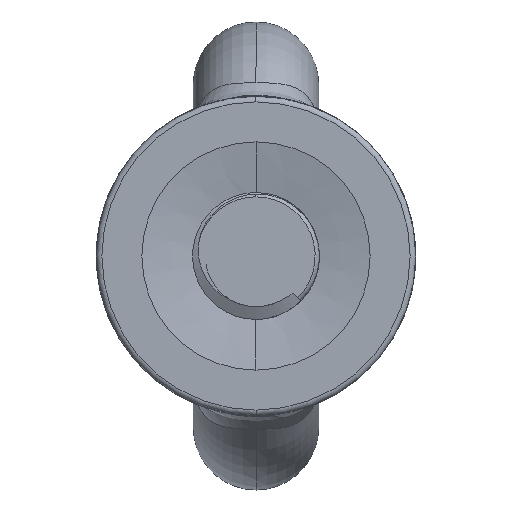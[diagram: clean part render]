
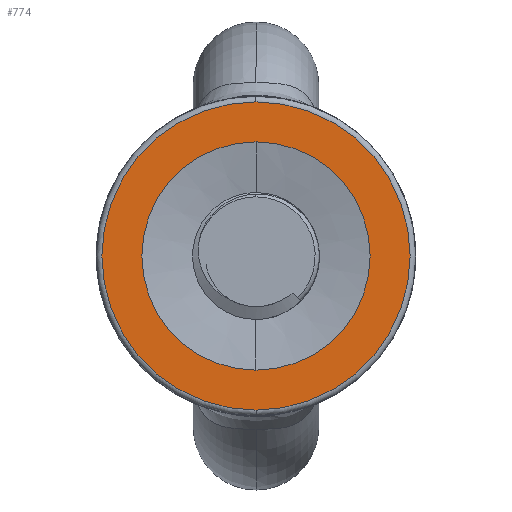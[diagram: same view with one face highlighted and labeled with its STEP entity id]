
A CAD part, left-side view. The second image highlights one B-rep face of the part: STEP entity #774.
In plain terms, the highlighted planar face has unit normal (-1, 0, 0).
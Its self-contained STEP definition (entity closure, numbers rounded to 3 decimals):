
#346 = CIRCLE ( 'NONE', #411, 13.5 ) ;
#396 = CIRCLE ( 'NONE', #4891, 10. ) ;
#411 = AXIS2_PLACEMENT_3D ( 'NONE', #1841, #1842, #1843 ) ;
#413 = AXIS2_PLACEMENT_3D ( 'NONE', #1043, #1044, #1045 ) ;
#419 = VERTEX_POINT ( 'NONE', #653 ) ;
#451 = ORIENTED_EDGE ( 'NONE', *, *, #4611, .F. ) ;
#454 = ORIENTED_EDGE ( 'NONE', *, *, #3268, .F. ) ;
#469 = VERTEX_POINT ( 'NONE', #695 ) ;
#499 = VERTEX_POINT ( 'NONE', #665 ) ;
#511 = ORIENTED_EDGE ( 'NONE', *, *, #3304, .T. ) ;
#653 = CARTESIAN_POINT ( 'NONE',  ( 0., 0., 13.5 ) ) ;
#665 = CARTESIAN_POINT ( 'NONE',  ( 0., 0., -10. ) ) ;
#695 = CARTESIAN_POINT ( 'NONE',  ( 0., 0., 10. ) ) ;
#774 = ADVANCED_FACE ( 'NONE', ( #1539, #1522 ), #3648, .F. ) ;
#1043 = CARTESIAN_POINT ( 'NONE',  ( 0., 0., 0. ) ) ;
#1044 = DIRECTION ( 'NONE',  ( -1., 0., 0. ) ) ;
#1045 = DIRECTION ( 'NONE',  ( 0., 0., -1. ) ) ;
#1417 = CARTESIAN_POINT ( 'NONE',  ( 0., 0., 0. ) ) ;
#1418 = DIRECTION ( 'NONE',  ( -1., 0., 0. ) ) ;
#1419 = DIRECTION ( 'NONE',  ( 0., 0., 1. ) ) ;
#1504 = VERTEX_POINT ( 'NONE', #4294 ) ;
#1522 = FACE_BOUND ( 'NONE', #2601, .T. ) ;
#1539 = FACE_OUTER_BOUND ( 'NONE', #2606, .T. ) ;
#1547 = AXIS2_PLACEMENT_3D ( 'NONE', #1417, #1418, #1419 ) ;
#1841 = CARTESIAN_POINT ( 'NONE',  ( 0., 0., 0. ) ) ;
#1842 = DIRECTION ( 'NONE',  ( -1., 0., 0. ) ) ;
#1843 = DIRECTION ( 'NONE',  ( 0., 0., -1. ) ) ;
#2253 = CIRCLE ( 'NONE', #1547, 10. ) ;
#2262 = CIRCLE ( 'NONE', #413, 13.5 ) ;
#2601 = EDGE_LOOP ( 'NONE', ( #454, #451 ) ) ;
#2606 = EDGE_LOOP ( 'NONE', ( #511, #4523 ) ) ;
#2904 = CARTESIAN_POINT ( 'NONE',  ( 0., 0., 0. ) ) ;
#2905 = DIRECTION ( 'NONE',  ( -1., 0., 0. ) ) ;
#2906 = DIRECTION ( 'NONE',  ( 0., 0., 1. ) ) ;
#3245 = EDGE_CURVE ( 'NONE', #419, #1504, #2262, .T. ) ;
#3268 = EDGE_CURVE ( 'NONE', #469, #499, #2253, .T. ) ;
#3304 = EDGE_CURVE ( 'NONE', #1504, #419, #346, .T. ) ;
#3631 = CARTESIAN_POINT ( 'NONE',  ( 0., 0., -10. ) ) ;
#3648 = PLANE ( 'NONE',  #4573 ) ;
#3675 = DIRECTION ( 'NONE',  ( 1., 0., 0. ) ) ;
#3701 = DIRECTION ( 'NONE',  ( 0., 0., -1. ) ) ;
#4294 = CARTESIAN_POINT ( 'NONE',  ( 0., 0., -13.5 ) ) ;
#4523 = ORIENTED_EDGE ( 'NONE', *, *, #3245, .T. ) ;
#4573 = AXIS2_PLACEMENT_3D ( 'NONE', #3631, #3675, #3701 ) ;
#4611 = EDGE_CURVE ( 'NONE', #499, #469, #396, .T. ) ;
#4891 = AXIS2_PLACEMENT_3D ( 'NONE', #2904, #2905, #2906 ) ;
